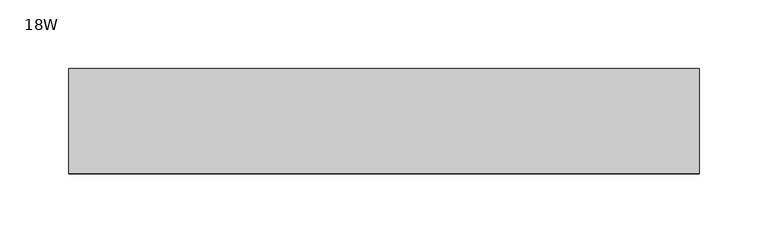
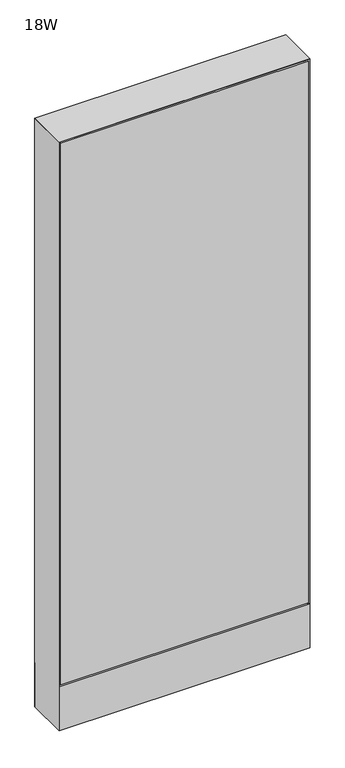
"""IFC4 building model written with IfcOpenShell, lengths in millimetres: furniture geometry, Steelcase - Montage - Frame - 45H - Enhanced Monolithic - Base Cavity : 18W."""

from ifc_helpers import new_model, si_unit, point, frame, frame_2d, origin, origin_with_axes, place, context, project, spatial, polyline, circle_curve, trimmed, segment, composite_curve, outline, extrude, faceted_brep, source, transform, mapped, element, save


def furniture_18w_59cc3c81(model_context):
    return source(origin(), model_context, "Body", "SolidModel", [
        extrude(outline(polyline([(3.175, 31.7500194), (3.175, 38.1000194), (454.025, 38.1000194), (454.025, 31.7500194), (3.175, 31.7500194)])), frame((0.0, 0.0, 92.075), z_axis=(0.0, 0.0, 1.0), x_axis=(1.0, 0.0, 0.0)), (0.0, 0.0, 1.0), 1041.4),
        extrude(outline(polyline([(3.175, -31.7500194), (454.025, -31.7500194), (454.025, -38.1000194), (3.175, -38.1000194), (3.175, -31.7500194)])), frame((0.0, 0.0, 92.075), z_axis=(0.0, 0.0, 1.0), x_axis=(1.0, 0.0, 0.0)), (0.0, 0.0, 1.0), 1041.4),
        extrude(outline(polyline([(6.350003, -31.7499985), (450.849997, -31.7499985), (457.2, -38.1000015), (0.0, -38.1000015), (6.350003, -31.7499985)])), frame((0.0, 0.0, 4.064), z_axis=(0.0, 0.0, 1.0), x_axis=(1.0, 0.0, 0.0)), (0.0, 0.0, 1.0), 84.835997),
        extrude(outline(polyline([(6.3500002, 31.7500017), (0.0, 38.1000015), (457.2, 38.1000015), (450.8500002, 31.7500017), (6.3500002, 31.7500017)])), frame((0.0, 0.0, 4.064), z_axis=(0.0, 0.0, 1.0), x_axis=(1.0, 0.0, 0.0)), (0.0, 0.0, 1.0), 84.835997),
        faceted_brep([(457.2, -38.1000015, 1136.65), (0.0, -38.1000015, 1136.65), (6.3500484, -31.749953, 1130.2999516), (450.8499516, -31.749953, 1130.2999516), (6.3500484, 31.749953, 1130.2999516), (450.8499516, 31.749953, 1130.2999516), (0.0, 38.1000015, 1136.65), (457.2, 38.1000015, 1136.65)], [[[0, 1, 2, 3]], [[3, 2, 4, 5]], [[6, 7, 5, 4]], [[1, 0, 7, 6]], [[2, 1, 6, 4]], [[0, 3, 5, 7]]]),
        extrude(outline(composite_curve([segment(trimmed(circle_curve(frame_2d((44.45, 0.0)), 15.24), [point((29.21, 0.0))], [point((59.69, 0.0))], False, "CARTESIAN"), True, "CONTINUOUS"), segment(trimmed(circle_curve(frame_2d((44.45, 0.0)), 15.24), [point((59.69, 0.0))], [point((29.21, 0.0))], False, "CARTESIAN"), True, "CONTINUOUS")], self_intersect=False)), origin_with_axes(), (0.0, 0.0, 1.0), 4.064),
        extrude(outline(composite_curve([segment(trimmed(circle_curve(frame_2d((412.75, 0.0)), 15.24), [point((397.51, 0.0))], [point((427.99, 0.0))], False, "CARTESIAN"), True, "CONTINUOUS"), segment(trimmed(circle_curve(frame_2d((412.75, 0.0)), 15.24), [point((427.99, 0.0))], [point((397.51, 0.0))], False, "CARTESIAN"), True, "CONTINUOUS")], self_intersect=False)), origin_with_axes(), (0.0, 0.0, 1.0), 4.064),
        faceted_brep([(457.2, -38.1000106, 4.064), (457.2, 38.1000015, 4.064), (457.2, 38.1000015, 1136.65), (457.2, -38.1000106, 1136.6499637), (0.0, 38.1000015, 4.064), (0.0, -38.1000015, 4.064), (0.0, -38.1000015, 1136.65), (0.0, 38.1000015, 1136.65), (450.8499879, 31.7500017, 600.202), (6.35, 31.7500017, 600.202), (6.3499998, 31.7500017, 612.902), (450.8499879, 31.7500017, 612.902), (6.35, -31.7499985, 612.902), (450.8499879, -31.7499985, 612.902), (6.350003, -31.7499985, 600.202), (450.8499879, -31.7499985, 600.202), (6.35, 31.7500015, 4.064), (6.35, -31.7500015, 4.064), (450.8499879, 31.7499894, 4.064), (450.8499879, -31.7499985, 4.064), (6.35, 31.7500015, 1130.3), (6.35, -31.7500015, 1130.3), (450.8499879, -31.7499985, 1130.2999516), (450.8499879, 31.7499895, 1130.2999516)], [[[0, 1, 2, 3]], [[4, 5, 6, 7]], [[8, 9, 10, 11]], [[11, 10, 12, 13]], [[13, 12, 14, 15]], [[9, 8, 15, 14]], [[16, 17, 5, 4]], [[18, 1, 0, 19]], [[16, 4, 7, 20, 10, 9]], [[5, 17, 14, 12, 21, 6]], [[17, 16, 9, 14]], [[12, 10, 20, 21]], [[18, 19, 15, 8]], [[11, 13, 22, 23]], [[19, 0, 3, 22, 13, 15]], [[1, 18, 8, 11, 23, 2]], [[7, 6, 21, 20]], [[3, 2, 23, 22]]]),
    ])


if __name__ == "__main__":
    model = new_model("IFC4")
    model_context = context("Model", 3, world=origin())
    ifc_project = project(units=[si_unit("LENGTHUNIT", "METRE", prefix="MILLI")], contexts=[model_context])
    site = spatial("IfcSite", under=ifc_project)
    building = spatial("IfcBuilding", under=site)
    placement = place(None, origin())
    furniture_18w_shape = furniture_18w_59cc3c81(model_context)
    element("IfcFurniture", 1, ObjectType="Steelcase - Montage - Frame - 45H - Enhanced Monolithic - Base Cavity : 18W", at=placement, inside=building, context=model_context, shape_type="MappedRepresentation", body=[
        mapped(furniture_18w_shape, transform((0.0, 0.0, 0.0), x_axis=(1.0, 0.0, 0.0), y_axis=(0.0, 1.0, 0.0), z_axis=(0.0, 0.0, 1.0))),
    ])
    save(model, "model.ifc")
